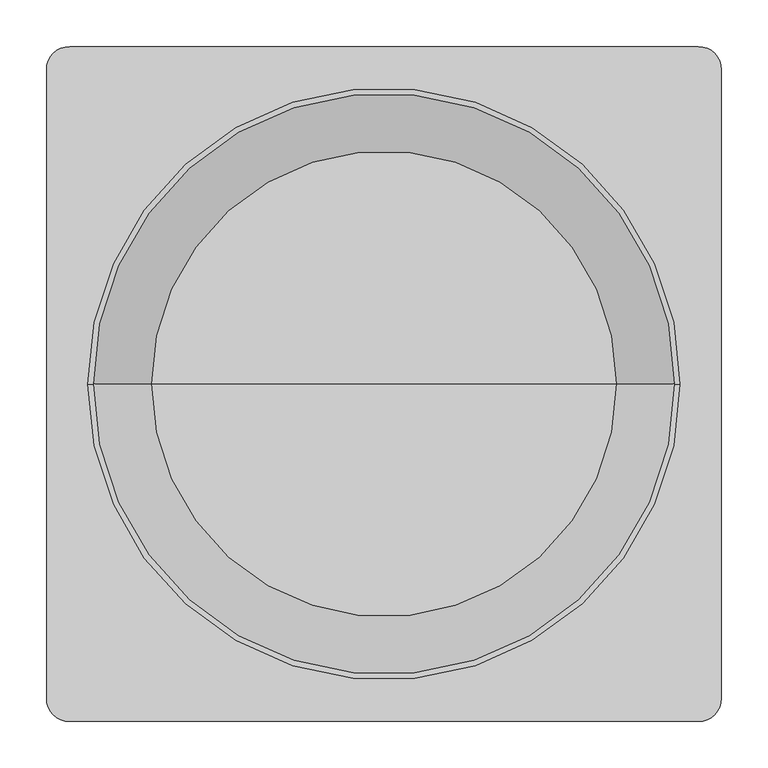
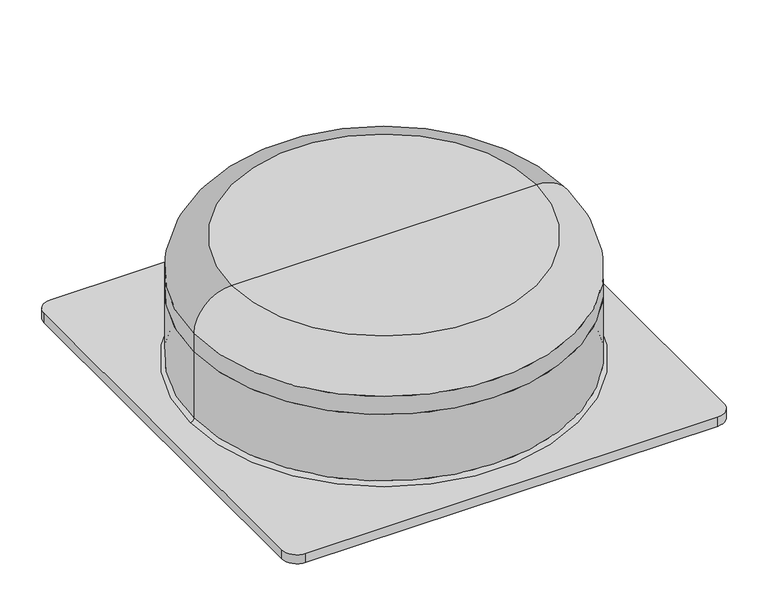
"""IFC4 building model written with IfcOpenShell, lengths in millimetres: unitary equipment geometry, VE-Wentylator-ParaForma-Harmann-WAF-Nawiewny : 560/4/6/13200T."""

from ifc_helpers import new_model, si_unit, point, frame, frame_2d, origin, origin_with_axes, origin_2d, place, context, project, spatial, polyline, circle_curve, ellipse_curve, trimmed, segment, composite_curve, outline, extrude, source, transform, mapped, element, save
from ifc_brep_helpers import plane_surface, cylinder_surface, revolved_surface, advanced_brep


def unitary_equipment_242db597(model_context):
    return source(origin(), model_context, "Body", "SolidModel", [
        advanced_brep(
        [(312.0, 0.0, 137.3), (0.0, 0.0, 137.3), (-312.0, 0.0, 137.3), (312.0, 0.0, 168.2), (-312.0, 0.0, 168.2), (250.2, 0.0, 230.0), (-250.2, 0.0, 230.0), (0.0, 0.0, 230.0)],
        [
            (0, 1),
            (1, 2),
            (2, 0, circle_curve(frame((0.0, 0.0, 137.3), z_axis=(0.0, 0.0, -1.0), x_axis=(-1.0000000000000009, 0.0, 0.0)), 312.0)),
            (0, 2, circle_curve(frame((0.0, 0.0, 137.3), z_axis=(0.0, 0.0, -1.0), x_axis=(-1.0000000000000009, 0.0, 0.0)), 312.0)),
            (3, 0),
            (2, 4),
            (4, 3, circle_curve(frame((0.0, 0.0, 168.2), z_axis=(0.0, 0.0, -1.0), x_axis=(-1.0000000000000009, 0.0, 0.0)), 312.0)),
            (3, 4, circle_curve(frame((0.0, 0.0, 168.2), z_axis=(0.0, 0.0, -1.0), x_axis=(-1.0000000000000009, 0.0, 0.0)), 312.0)),
            (5, 3, circle_curve(frame((250.2, 0.0, 168.2), z_axis=(0.0, 1.0000000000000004, 0.0), x_axis=(0.0, 0.0, -1.0000000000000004)), 61.8)),
            (4, 6, circle_curve(frame((-250.2, 0.0, 168.2), z_axis=(0.0, 1.0000000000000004, 0.0), x_axis=(0.0, 0.0, -1.0000000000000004)), 61.8)),
            (6, 5, circle_curve(frame((0.0, 0.0, 230.0), z_axis=(0.0, 0.0, -1.0), x_axis=(-1.0000000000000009, 0.0, 0.0)), 250.2)),
            (5, 6, circle_curve(frame((0.0, 0.0, 230.0), z_axis=(0.0, 0.0, -1.0), x_axis=(-1.0000000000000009, 0.0, 0.0)), 250.2)),
            (7, 5),
            (6, 7),
        ],
        [
            plane_surface(frame((0.0, 0.0, 137.3), z_axis=(0.0, 0.0, -1.0), x_axis=(-1.0, 0.0, 0.0))),
            cylinder_surface(frame((0.0, 0.0, 137.3), z_axis=(0.0, 0.0, 1.0000000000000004), x_axis=(-1.0000000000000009, 0.0, 0.0)), 312.0),
            revolved_surface(trimmed(ellipse_curve(frame((-250.2, 0.0, 168.2), z_axis=(0.0, 1.0000000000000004, 0.0), x_axis=(0.0, 0.0, -1.0000000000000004)), 61.8, 61.8), [point((-312.0, 0.0, 168.2))], [point((-250.2, 0.0, 230.0))], True, "CARTESIAN"), (0.0, 0.0, 137.3), (0.0, 0.0, 1.0000000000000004)),
            plane_surface(frame((0.0, 0.0, 230.0), z_axis=(0.0, 0.0, 1.0), x_axis=(-1.0, 0.0, 0.0))),
        ],
        [
            (0, [[1, 2, 3]]),
            (0, [[-2, -1, 4]]),
            (1, [[5, -3, 6, 7]]),
            (1, [[-6, -4, -5, 8]]),
            (2, [[9, -7, 10, 11]]),
            (2, [[-10, -8, -9, 12]]),
            (3, [[13, -11, 14]]),
            (3, [[-14, -12, -13]]),
        ],
    ),
        advanced_brep(
        [(0.0, 0.0, 137.3), (312.0, 0.0, 137.3), (-312.0, 0.0, 137.3), (318.0, 0.0, 16.0), (0.0, 0.0, 16.0), (-318.0, 0.0, 16.0), (312.0, 0.0, 22.0), (-312.0, 0.0, 22.0)],
        [
            (0, 1),
            (1, 2, circle_curve(frame((0.0, 0.0, 137.3), z_axis=(0.0, 0.0, 1.0), x_axis=(-1.0000000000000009, 0.0, 0.0)), 312.0)),
            (2, 0),
            (2, 1, circle_curve(frame((0.0, 0.0, 137.3), z_axis=(0.0, 0.0, 1.0), x_axis=(-1.0000000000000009, 0.0, 0.0)), 312.0)),
            (3, 4),
            (4, 5),
            (5, 3, circle_curve(frame((0.0, 0.0, 16.0), z_axis=(0.0, 0.0, -1.0), x_axis=(-1.0000000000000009, 0.0, 0.0)), 318.0)),
            (3, 5, circle_curve(frame((0.0, 0.0, 16.0), z_axis=(0.0, 0.0, -1.0), x_axis=(-1.0000000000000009, 0.0, 0.0)), 318.0)),
            (6, 3, circle_curve(frame((318.0, 0.0, 22.0), z_axis=(0.0, -1.0000000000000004, 0.0), x_axis=(0.0, 0.0, -1.0000000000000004)), 6.0)),
            (5, 7, circle_curve(frame((-318.0, 0.0, 22.0), z_axis=(0.0, -1.0000000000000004, 0.0), x_axis=(0.0, 0.0, -1.0000000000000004)), 6.0)),
            (7, 6, circle_curve(frame((0.0, 0.0, 22.0), z_axis=(0.0, 0.0, -1.0), x_axis=(-1.0000000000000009, 0.0, 0.0)), 312.0)),
            (6, 7, circle_curve(frame((0.0, 0.0, 22.0), z_axis=(0.0, 0.0, -1.0), x_axis=(-1.0000000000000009, 0.0, 0.0)), 312.0)),
            (1, 6),
            (7, 2),
        ],
        [
            plane_surface(frame((0.0, 0.0, 137.3), z_axis=(0.0, 0.0, 1.0), x_axis=(-1.0, 0.0, 0.0))),
            plane_surface(frame((0.0, 0.0, 16.0), z_axis=(0.0, 0.0, -1.0), x_axis=(-1.0, 0.0, 0.0))),
            revolved_surface(trimmed(ellipse_curve(frame((-318.0, 0.0, 22.0), z_axis=(0.0, -1.0000000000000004, 0.0), x_axis=(0.0, 0.0, -1.0000000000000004)), 6.0, 6.0), [point((-318.0, 0.0, 16.0))], [point((-312.0, 0.0, 22.0))], True, "CARTESIAN"), (0.0, 0.0, 137.3), (0.0, 0.0, 1.0000000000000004)),
            cylinder_surface(frame((0.0, 0.0, 137.3), z_axis=(0.0, 0.0, 1.0000000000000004), x_axis=(-1.0000000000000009, 0.0, 0.0)), 312.0),
        ],
        [
            (0, [[1, 2, 3]]),
            (0, [[-3, 4, -1]]),
            (1, [[5, 6, 7]]),
            (1, [[-6, -5, 8]]),
            (2, [[9, -7, 10, 11]]),
            (2, [[-10, -8, -9, 12]]),
            (3, [[13, -11, 14, -2]]),
            (3, [[-14, -12, -13, -4]]),
        ],
    ),
        extrude(outline(composite_curve([segment(trimmed(circle_curve(origin_2d(), 95.4), [point((95.4, 0.0))], [point((-95.4, 0.0))], False, "CARTESIAN"), True, "CONTINUOUS"), segment(trimmed(circle_curve(origin_2d(), 95.4), [point((-95.4, 0.0))], [point((95.4, 0.0))], False, "CARTESIAN"), True, "CONTINUOUS")], self_intersect=False)), frame((0.0, 0.0, -19.0), z_axis=(0.0, 0.0, 1.0), x_axis=(1.0, 0.0, 0.0)), (0.0, 0.0, 1.0), 19.0),
        extrude(outline(composite_curve([segment(trimmed(circle_curve(frame_2d((337.5, 337.5)), 25.0), [point((337.5, 362.5))], [point((362.5, 337.5))], False, "CARTESIAN"), True, "CONTINUOUS"), segment(polyline([(362.5, 337.5), (362.5, -337.5)]), True, "CONTINUOUS"), segment(trimmed(circle_curve(frame_2d((337.5, -337.5)), 25.0), [point((362.5, -337.5))], [point((337.5, -362.5))], False, "CARTESIAN"), True, "CONTINUOUS"), segment(polyline([(337.5, -362.5), (-337.5, -362.5)]), True, "CONTINUOUS"), segment(trimmed(circle_curve(frame_2d((-337.5, -337.5)), 25.0), [point((-337.5, -362.5))], [point((-362.5, -337.5))], False, "CARTESIAN"), True, "CONTINUOUS"), segment(polyline([(-362.5, -337.5), (-362.5, 337.5)]), True, "CONTINUOUS"), segment(trimmed(circle_curve(frame_2d((-337.5, 337.5)), 25.0), [point((-362.5, 337.5))], [point((-337.5, 362.5))], False, "CARTESIAN"), True, "CONTINUOUS"), segment(polyline([(-337.5, 362.5), (337.5, 362.5)]), True, "CONTINUOUS")], self_intersect=False)), origin_with_axes(), (0.0, 0.0, 1.0), 16.0),
    ])


if __name__ == "__main__":
    model = new_model("IFC4")
    model_context = context("Model", 3, world=origin())
    ifc_project = project(units=[si_unit("LENGTHUNIT", "METRE", prefix="MILLI")], contexts=[model_context])
    site = spatial("IfcSite", under=ifc_project)
    building = spatial("IfcBuilding", under=site)
    placement = place(None, origin())
    unitary_equipment_shape = unitary_equipment_242db597(model_context)
    element("IfcUnitaryEquipment", 1, ObjectType="VE-Wentylator-ParaForma-Harmann-WAF-Nawiewny : 560/4/6/13200T", at=placement, inside=building, context=model_context, shape_type="MappedRepresentation", body=[
        mapped(unitary_equipment_shape, transform((0.0, 0.0, 0.0), x_axis=(1.0, 0.0, 0.0), y_axis=(0.0, 1.0, 0.0), z_axis=(0.0, 0.0, 1.0))),
    ])
    save(model, "model.ifc")
